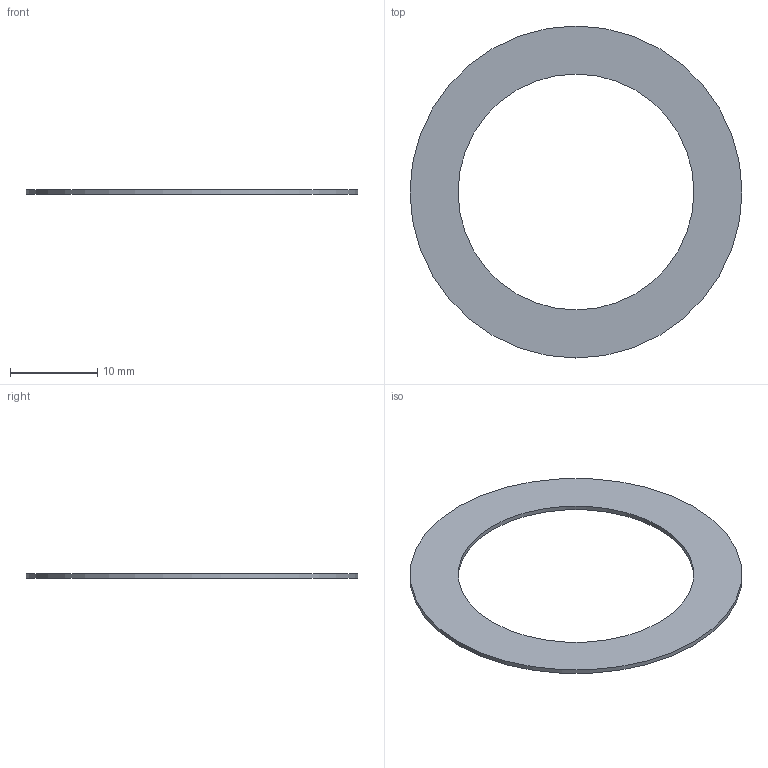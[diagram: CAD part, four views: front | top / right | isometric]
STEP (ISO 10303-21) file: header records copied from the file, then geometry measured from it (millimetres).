
FILE_DESCRIPTION(('STEP AP203'), '1');
FILE_NAME('êðóæîê íà äûðêó', '', ('UNSPECIFIED'), ('UNSPECIFIED'), 'ASCON STEP Converter 1.3', 'ASCON Math Kernel', '');
FILE_SCHEMA(('CONFIG_CONTROL_DESIGN'));
Length unit declared in the file: millimetre
Bounding box: 38 x 38 x 0.5 mm (x, y, z)
Volume: 280.8 mm3; surface area: 1225.2 mm2
Topology: 1 solids, 1 shells, 4 faces, 6 edges, 4 vertices
Faces by surface type: plane 2, cylinder 2
Full cylindrical faces by diameter (mm): 27 x1, 38 x1
Entity records: 164 total; most frequent: DIRECTION 18, CARTESIAN_POINT 13, AXIS2_PLACEMENT_3D 9, EDGE_LOOP 8, ORIENTED_EDGE 8, COLOUR_RGB 5, FILL_AREA_STYLE_COLOUR 5, FILL_AREA_STYLE 5
